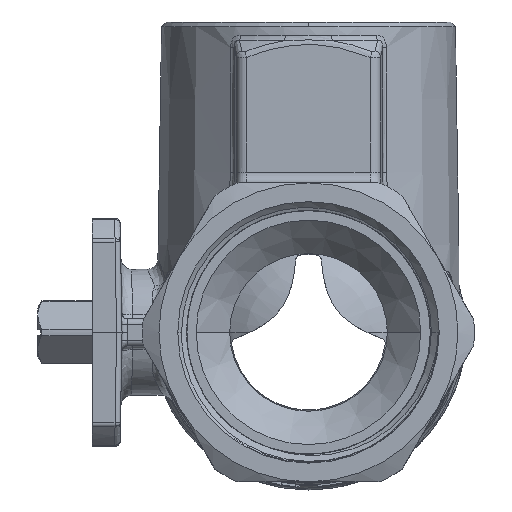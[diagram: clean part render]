
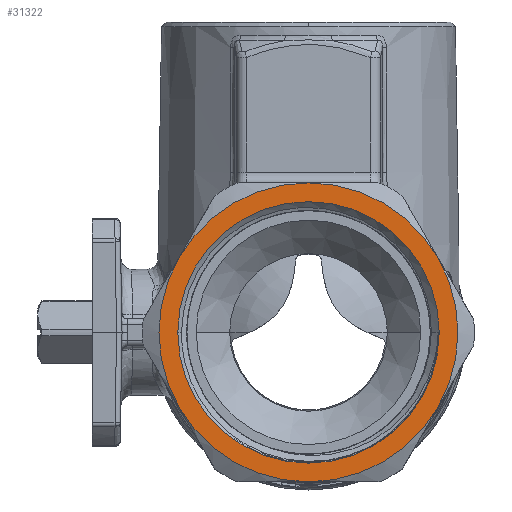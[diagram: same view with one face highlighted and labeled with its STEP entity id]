
A CAD part, left-side view. The second image highlights one B-rep face of the part: STEP entity #31322.
In plain terms, the highlighted planar face has unit normal (-1, 0, 0).
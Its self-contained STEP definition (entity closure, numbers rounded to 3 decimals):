
#733=CARTESIAN_POINT('',(-54.8,0.,
-27.5));
#1830=CARTESIAN_POINT('',(-54.8,0.,0.));
#1831=DIRECTION('',(-1.,0.,0.));
#1832=DIRECTION('',(0.,0.,-1.));
#1833=AXIS2_PLACEMENT_3D('',#1830,#1831,#1832);
#1847=CARTESIAN_POINT('',(-54.8,-23.816,
-13.75));
#1876=CARTESIAN_POINT('',(-54.8,0.,0.));
#1877=DIRECTION('',(-1.,0.,0.));
#1878=DIRECTION('',(0.,-0.866,-0.5));
#1879=AXIS2_PLACEMENT_3D('',#1876,#1877,#1878);
#1909=CARTESIAN_POINT('',(-54.8,-23.816,
13.75));
#1946=CARTESIAN_POINT('',(-54.8,0.,0.));
#1947=DIRECTION('',(1.,0.,0.));
#1948=DIRECTION('',(0.,0.,1.));
#1949=AXIS2_PLACEMENT_3D('',#1946,#1947,#1948);
#1963=CARTESIAN_POINT('',(-54.8,0.,
27.5));
#2062=CARTESIAN_POINT('',(-54.8,0.,0.));
#2063=DIRECTION('',(1.,0.,0.));
#2064=DIRECTION('',(0.,0.866,0.5));
#2065=AXIS2_PLACEMENT_3D('',#2062,#2063,#2064);
#2079=CARTESIAN_POINT('',(-54.8,23.816,13.75));
#2095=CARTESIAN_POINT('',(-54.8,0.,0.));
#2096=DIRECTION('',(-1.,0.,0.));
#2097=DIRECTION('',(0.,0.866,0.5));
#2098=AXIS2_PLACEMENT_3D('',#2095,#2096,#2097);
#2121=CARTESIAN_POINT('',(-54.8,0.,0.));
#2122=DIRECTION('',(1.,0.,0.));
#2123=DIRECTION('',(0.,1.,0.));
#2124=AXIS2_PLACEMENT_3D('',#2121,#2122,#2123);
#2126=CARTESIAN_POINT('',(-54.8,0.,0.));
#2127=DIRECTION('',(-1.,0.,0.));
#2128=DIRECTION('',(0.,1.,0.));
#2129=AXIS2_PLACEMENT_3D('',#2126,#2127,#2128);
#2152=CARTESIAN_POINT('',(-54.8,0.,0.));
#2153=DIRECTION('',(-1.,0.,0.));
#2154=DIRECTION('',(0.,0.866,-0.5));
#2155=AXIS2_PLACEMENT_3D('',#2152,#2153,#2154);
#2302=CARTESIAN_POINT('',(-54.8,23.816,
-13.75));
#26192=CARTESIAN_POINT('',(-54.8,24.05,0.));
#26193=CARTESIAN_POINT('',(-54.8,-24.05,0.));
#26194=VERTEX_POINT('',#26192);
#26195=VERTEX_POINT('',#26193);
#26197=VERTEX_POINT('',#2079);
#26204=VERTEX_POINT('',#1963);
#26211=VERTEX_POINT('',#1909);
#26214=VERTEX_POINT('',#1847);
#26221=VERTEX_POINT('',#733);
#26228=VERTEX_POINT('',#2302);
#31302=CARTESIAN_POINT('',(-54.8,0.,0.));
#31303=DIRECTION('',(1.,0.,0.));
#31304=DIRECTION('',(0.,-1.,0.));
#31305=AXIS2_PLACEMENT_3D('',#31302,#31303,#31304);
#31306=PLANE('',#31305);
#31307=ORIENTED_EDGE('',*,*,#31288,.F.);
#31308=ORIENTED_EDGE('',*,*,#31261,.T.);
#31309=ORIENTED_EDGE('',*,*,#31189,.T.);
#31310=ORIENTED_EDGE('',*,*,#31119,.F.);
#31311=ORIENTED_EDGE('',*,*,#31087,.F.);
#31313=ORIENTED_EDGE('',*,*,#31312,.F.);
#31314=EDGE_LOOP('',(#31307,#31308,#31309,#31310,#31311,#31313));
#31315=FACE_OUTER_BOUND('',#31314,.F.);
#31317=ORIENTED_EDGE('',*,*,#31316,.F.);
#31319=ORIENTED_EDGE('',*,*,#31318,.T.);
#31320=EDGE_LOOP('',(#31317,#31319));
#31321=FACE_BOUND('',#31320,.F.);
#1834=CIRCLE('',#1833,27.5);
#1880=CIRCLE('',#1879,27.5);
#1950=CIRCLE('',#1949,27.5);
#2066=CIRCLE('',#2065,27.5);
#2099=CIRCLE('',#2098,27.5);
#2125=CIRCLE('',#2124,24.05);
#2130=CIRCLE('',#2129,24.05);
#2156=CIRCLE('',#2155,27.5);
#31087=EDGE_CURVE('',#26221,#26214,#1834,.T.);
#31119=EDGE_CURVE('',#26214,#26211,#1880,.T.);
#31189=EDGE_CURVE('',#26204,#26211,#1950,.T.);
#31261=EDGE_CURVE('',#26197,#26204,#2066,.T.);
#31288=EDGE_CURVE('',#26197,#26228,#2099,.T.);
#31312=EDGE_CURVE('',#26228,#26221,#2156,.T.);
#31316=EDGE_CURVE('',#26194,#26195,#2125,.T.);
#31318=EDGE_CURVE('',#26194,#26195,#2130,.T.);
#31322=ADVANCED_FACE('',(#31315,#31321),#31306,.F.);
